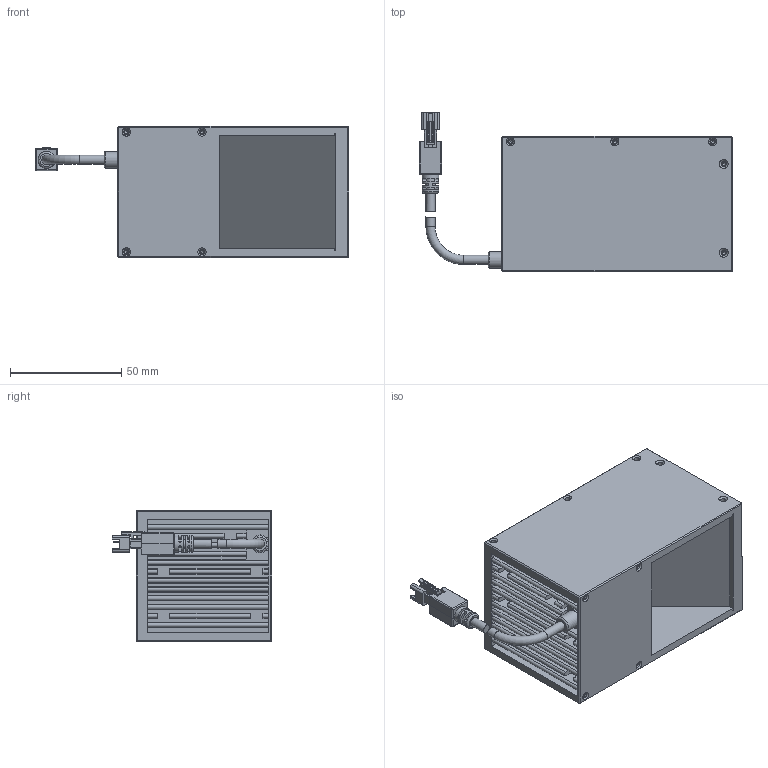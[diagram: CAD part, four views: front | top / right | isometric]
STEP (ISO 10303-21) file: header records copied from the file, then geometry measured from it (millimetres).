
FILE_DESCRIPTION (( 'STEP AP203' ), '1' );
FILE_NAME ('OPT-CO60-X-V5.0尨砩芞.STEP', '2025-01-22T03:24:07', ( '' ), ( '' ), 'SwSTEP 2.0', 'SolidWorks 2016', '' );
FILE_SCHEMA (( 'CONFIG_CONTROL_DESIGN' ));
Length unit declared in the file: millimetre
Products named in the file (1): OPT-CO60-X-V5.0尨砩芞
Bounding box: 140.98 x 71.8 x 59 mm (x, y, z)
Volume: 281377.1 mm3; surface area: 62084.6 mm2
Topology: 6 solids, 14 shells, 651 faces, 1627 edges, 1037 vertices
Faces by surface type: plane 411, cylinder 168, cone 44, bspline 20, torus 8
Full cylindrical faces by diameter (mm): 1.6 x18, 2 x14, 2.4 x14, 3.5 x1, 4.1 x3, 4.2 x4, 5.8 x1, 7.5 x2, 8 x1
Entity records: 18953 total; most frequent: CARTESIAN_POINT 4021, DIRECTION 3041, ORIENTED_EDGE 2942, EDGE_CURVE 1471, LINE 1041, VECTOR 1041, AXIS2_PLACEMENT_3D 1000, VERTEX_POINT 994
